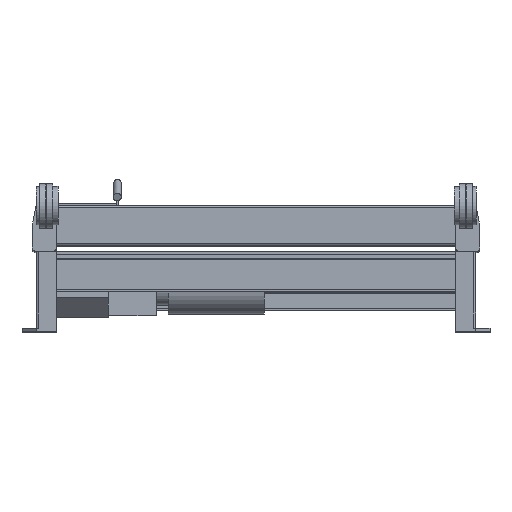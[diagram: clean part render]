
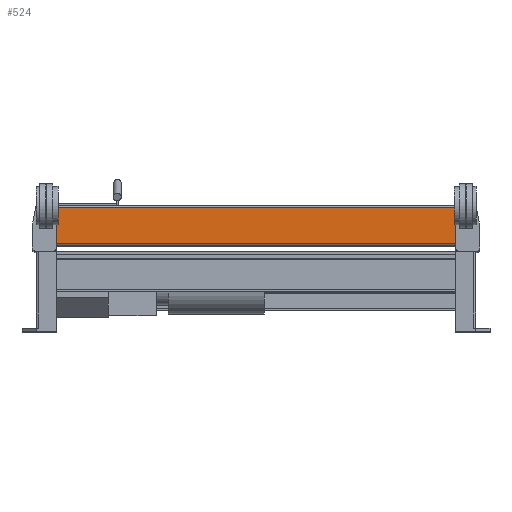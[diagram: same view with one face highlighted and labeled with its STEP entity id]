
A CAD part, top view. The second image highlights one B-rep face of the part: STEP entity #524.
In plain terms, the highlighted planar face has unit normal (0, 0, 1).
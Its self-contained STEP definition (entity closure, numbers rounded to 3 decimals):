
#467=CARTESIAN_POINT('',(499.,20.,-225.));
#468=VERTEX_POINT('',#467);
#476=CARTESIAN_POINT('',(-499.,20.,-225.));
#477=VERTEX_POINT('',#476);
#478=CARTESIAN_POINT('',(-499.,20.,-225.));
#479=DIRECTION('',(1.0,0.0,0.0));
#480=VECTOR('',#479,998.);
#481=LINE('',#478,#480);
#482=EDGE_CURVE('',#477,#468,#481,.T.);
#494=CARTESIAN_POINT('',(0.0,110.,-225.));
#495=DIRECTION('',(0.0,0.0,1.0));
#496=DIRECTION('',(0.0,-1.0,0.0));
#497=AXIS2_PLACEMENT_3D('',#494,#495,#496);
#498=PLANE('',#497);
#499=ORIENTED_EDGE('',*,*,#482,.T.);
#500=CARTESIAN_POINT('',(499.,110.,-225.));
#501=VERTEX_POINT('',#500);
#502=CARTESIAN_POINT('',(499.,110.,-225.));
#503=DIRECTION('',(0.0,-1.0,0.0));
#504=VECTOR('',#503,90.);
#505=LINE('',#502,#504);
#506=EDGE_CURVE('',#501,#468,#505,.T.);
#507=ORIENTED_EDGE('',*,*,#506,.F.);
#508=CARTESIAN_POINT('',(-499.,110.,-225.));
#509=VERTEX_POINT('',#508);
#510=CARTESIAN_POINT('',(-499.,110.,-225.));
#511=DIRECTION('',(1.0,0.0,0.0));
#512=VECTOR('',#511,998.);
#513=LINE('',#510,#512);
#514=EDGE_CURVE('',#509,#501,#513,.T.);
#515=ORIENTED_EDGE('',*,*,#514,.F.);
#516=CARTESIAN_POINT('',(-499.,20.,-225.));
#517=DIRECTION('',(0.0,1.0,0.0));
#518=VECTOR('',#517,90.);
#519=LINE('',#516,#518);
#520=EDGE_CURVE('',#477,#509,#519,.T.);
#521=ORIENTED_EDGE('',*,*,#520,.F.);
#522=EDGE_LOOP('',(#499,#507,#515,#521));
#523=FACE_OUTER_BOUND('',#522,.T.);
#524=ADVANCED_FACE('',(#523),#498,.T.);
